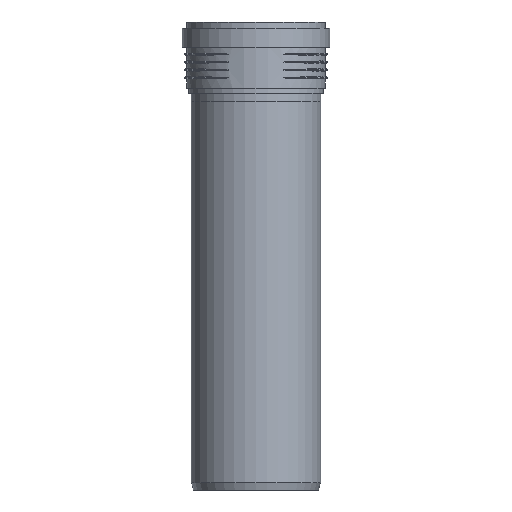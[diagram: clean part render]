
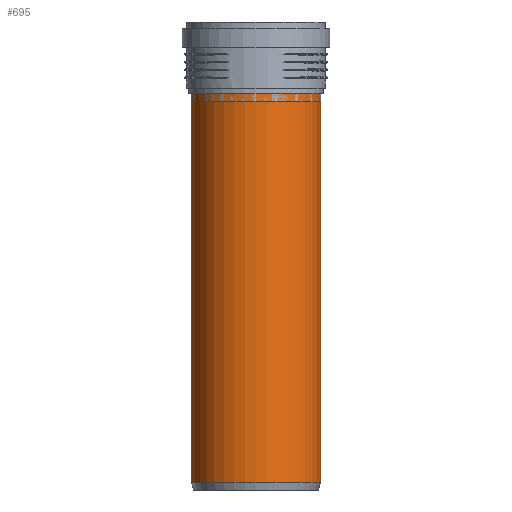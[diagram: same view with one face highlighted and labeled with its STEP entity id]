
A CAD part, left-side view. The second image highlights one B-rep face of the part: STEP entity #695.
In plain terms, the highlighted cylindrical face has radius 80.125 mm (diameter 160.25 mm), a full revolution.
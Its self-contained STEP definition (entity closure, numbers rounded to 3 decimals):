
#94=CYLINDRICAL_SURFACE($,#750,80.125);
#118=FACE_BOUND($,#198,.T.);
#153=FACE_OUTER_BOUND($,#197,.T.);
#197=EDGE_LOOP($,(#472));
#198=EDGE_LOOP($,(#473));
#272=CIRCLE($,#747,80.125);
#274=CIRCLE($,#751,80.125);
#311=VERTEX_POINT($,#1021);
#313=VERTEX_POINT($,#1027);
#382=EDGE_CURVE($,#311,#311,#272,.T.);
#384=EDGE_CURVE($,#313,#313,#274,.T.);
#472=ORIENTED_EDGE($,*,*,#384,.T.);
#473=ORIENTED_EDGE($,*,*,#382,.F.);
#695=ADVANCED_FACE($,(#153,#118),#94,.T.);
#747=AXIS2_PLACEMENT_3D($,#1022,#841,#842);
#750=AXIS2_PLACEMENT_3D($,#1026,#847,#848);
#751=AXIS2_PLACEMENT_3D($,#1028,#849,#850);
#841=DIRECTION('center_axis',(0.,0.,-1.));
#842=DIRECTION('ref_axis',(-1.,0.,0.));
#847=DIRECTION('center_axis',(0.,0.,1.));
#848=DIRECTION('ref_axis',(-1.,0.,0.));
#849=DIRECTION('center_axis',(0.,0.,-1.));
#850=DIRECTION('ref_axis',(-1.,0.,0.));
#1021=CARTESIAN_POINT('',(80.125,0.,-237.));
#1022=CARTESIAN_POINT('Origin',(0.,0.,-237.));
#1026=CARTESIAN_POINT('Origin',(0.,0.,0.));
#1027=CARTESIAN_POINT('',(80.125,0.,246.));
#1028=CARTESIAN_POINT('Origin',(0.,0.,246.));
